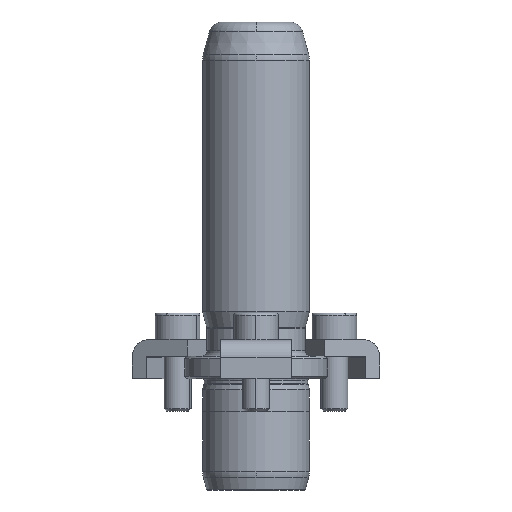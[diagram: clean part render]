
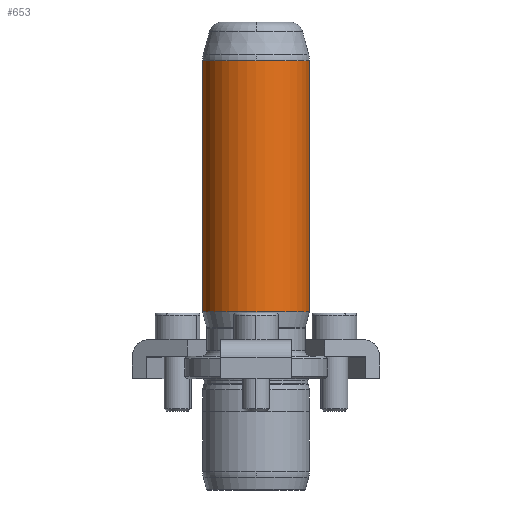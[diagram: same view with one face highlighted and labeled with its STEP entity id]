
A CAD part, front view. The second image highlights one B-rep face of the part: STEP entity #653.
In plain terms, the highlighted cylindrical face has radius 12 mm (diameter 24 mm), a partial arc.
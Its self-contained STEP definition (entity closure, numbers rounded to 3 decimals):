
#566=CARTESIAN_POINT('',(0.0,-12.,71.342));
#567=VERTEX_POINT('',#566);
#594=CARTESIAN_POINT('',(-12.0,0.,71.342));
#595=VERTEX_POINT('',#594);
#603=CARTESIAN_POINT('',(0.0,0.,71.342));
#604=DIRECTION('',(0.0,0.0,1.0));
#605=DIRECTION('',(1.0,0.0,0.0));
#606=AXIS2_PLACEMENT_3D('',#603,#604,#605);
#607=CIRCLE('',#606,12.0);
#608=EDGE_CURVE('',#595,#567,#607,.T.);
#613=CARTESIAN_POINT('',(0.0,0.,43.171));
#614=DIRECTION('',(0.0,0.,1.0));
#615=DIRECTION('',(1.0,0.0,0.0));
#616=AXIS2_PLACEMENT_3D('',#613,#614,#615);
#617=CYLINDRICAL_SURFACE('',#616,12.0);
#618=CARTESIAN_POINT('',(12.0,0.,71.342));
#619=VERTEX_POINT('',#618);
#620=CARTESIAN_POINT('',(12.0,0.,15.0));
#621=VERTEX_POINT('',#620);
#622=CARTESIAN_POINT('',(12.0,0.,71.342));
#623=DIRECTION('',(0.0,0.0,-1.0));
#624=VECTOR('',#623,56.342);
#625=LINE('',#622,#624);
#626=EDGE_CURVE('',#619,#621,#625,.T.);
#627=ORIENTED_EDGE('',*,*,#626,.F.);
#628=CARTESIAN_POINT('',(0.0,0.,71.342));
#629=DIRECTION('',(0.0,0.0,1.0));
#630=DIRECTION('',(1.0,0.0,0.0));
#631=AXIS2_PLACEMENT_3D('',#628,#629,#630);
#632=CIRCLE('',#631,12.0);
#633=EDGE_CURVE('',#567,#619,#632,.T.);
#634=ORIENTED_EDGE('',*,*,#633,.F.);
#635=ORIENTED_EDGE('',*,*,#608,.F.);
#636=CARTESIAN_POINT('',(-12.,0.,15.0));
#637=VERTEX_POINT('',#636);
#638=CARTESIAN_POINT('',(-12.0,0.,71.342));
#639=DIRECTION('',(0.0,0.0,-1.0));
#640=VECTOR('',#639,56.342);
#641=LINE('',#638,#640);
#642=EDGE_CURVE('',#595,#637,#641,.T.);
#643=ORIENTED_EDGE('',*,*,#642,.T.);
#644=CARTESIAN_POINT('',(0.0,0.,15.0));
#645=DIRECTION('',(0.0,0.0,1.0));
#646=DIRECTION('',(1.0,0.0,0.0));
#647=AXIS2_PLACEMENT_3D('',#644,#645,#646);
#648=CIRCLE('',#647,12.0);
#649=EDGE_CURVE('',#637,#621,#648,.T.);
#650=ORIENTED_EDGE('',*,*,#649,.T.);
#651=EDGE_LOOP('',(#627,#634,#635,#643,#650));
#652=FACE_OUTER_BOUND('',#651,.T.);
#653=ADVANCED_FACE('',(#652),#617,.T.);
